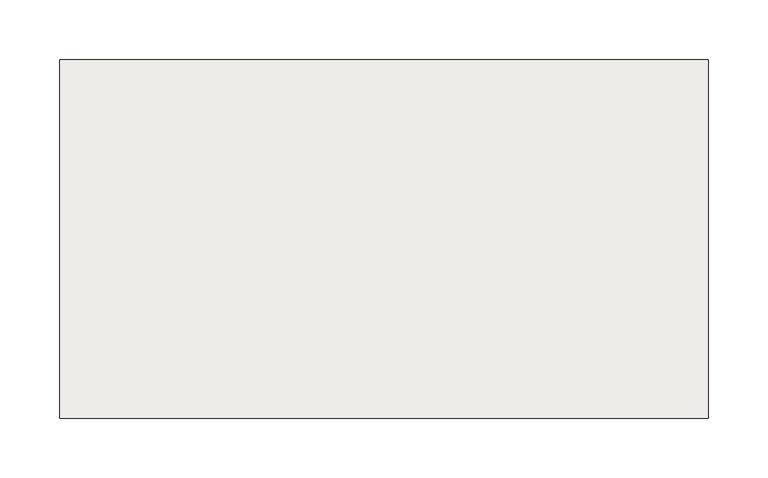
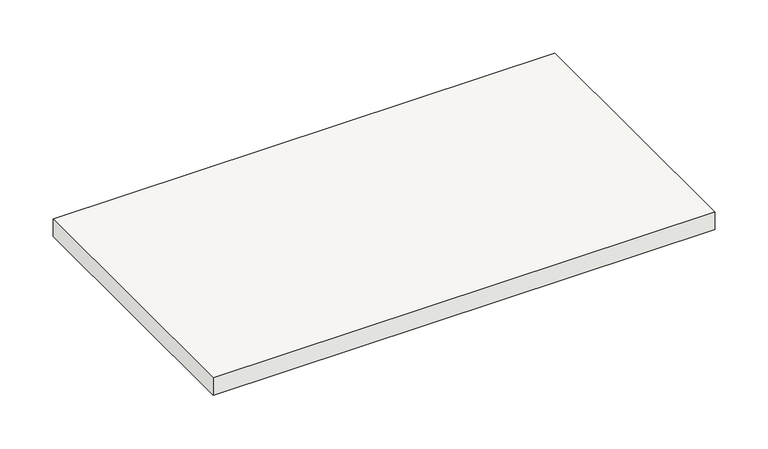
"""IFC4 building model written with IfcOpenShell, lengths in millimetres: slab geometry, Sol-02 - Tablette bois 2cm."""

import ifcopenshell
import ifcopenshell.guid

model = None  # the IFC model being written
_history = None  # IfcOwnerHistory: only IFC2X3 demands one
_inside = {}  # id of a spatial element -> (the spatial element, [elements in it])
_under = {}  # id of a project, library or spatial element -> (it, [spatial elements below it])
_declared = {}  # id of a project -> (the project, [libraries it declares])
_typed = {}  # id of a type object -> (the type object, [elements of that type])
_made_of = {}  # id of a material, layer set ... -> (it, [elements and type objects made of it])


def new_model(schema):
    """Start an empty IFC model of exactly this schema.

    Asked for "IFC4X3", IfcOpenShell would pick the latest addendum, in which some entities
    have other attributes; the version numbers below select the first issue.
    IFC2X3 requires an IfcOwnerHistory on every rooted entity: one is made here for all.
    """
    global model, _history
    if schema == "IFC4X3":
        model = ifcopenshell.file(schema_version=(4, 3, 0, 0))
    else:
        model = ifcopenshell.file(schema=schema)
    _inside.clear()
    _under.clear()
    _declared.clear()
    _typed.clear()
    _made_of.clear()
    _history = None
    if model.schema == "IFC2X3":
        org = make("IfcOrganization", Name="unknown")
        user = make(
            "IfcPersonAndOrganization",
            ThePerson=make("IfcPerson", FamilyName="unknown"),
            TheOrganization=org,
        )
        app = make(
            "IfcApplication",
            ApplicationDeveloper=org,
            Version="unknown",
            ApplicationFullName="unknown",
            ApplicationIdentifier="unknown",
        )
        _history = make(
            "IfcOwnerHistory",
            OwningUser=user,
            OwningApplication=app,
            ChangeAction="ADDED",
            CreationDate=0,
        )
    return model


def make(cls, **values):
    """One entity of the class cls with the attributes given. An attribute that is None is left unset."""
    return model.create_entity(
        cls, **{name: value for name, value in values.items() if value is not None}
    )


def rooted(cls, **values):
    """An entity with a GlobalId (a new one), such as an element, a storey or a relation."""
    return make(cls, GlobalId=ifcopenshell.guid.new(), OwnerHistory=_history, **values)


def si_unit(unit_type, name, prefix=None):
    """IfcSIUnit, for example si_unit("LENGTHUNIT", "METRE", prefix="MILLI")."""
    return make("IfcSIUnit", UnitType=unit_type, Prefix=prefix, Name=name)


def assignment(units):
    """IfcUnitAssignment: the units of a project."""
    return None if units is None else make("IfcUnitAssignment", Units=units)


def point(xyz):
    """IfcCartesianPoint."""
    return None if xyz is None else make("IfcCartesianPoint", Coordinates=xyz)


def direction(xyz):
    """IfcDirection."""
    return None if xyz is None else make("IfcDirection", DirectionRatios=xyz)


def frame(location, z_axis=None, x_axis=None):
    """IfcAxis2Placement3D, a coordinate frame: its origin and axes. An axis left out is left unset."""
    return make(
        "IfcAxis2Placement3D",
        Location=point(location),
        Axis=direction(z_axis),
        RefDirection=direction(x_axis),
    )


def origin():
    """The frame at (0, 0, 0) with its axes left unset."""
    return frame((0.0, 0.0, 0.0))


def origin_with_axes():
    """The frame at (0, 0, 0) with the z axis (0, 0, 1) and the x axis (1, 0, 0) written out."""
    return frame((0.0, 0.0, 0.0), z_axis=(0.0, 0.0, 1.0), x_axis=(1.0, 0.0, 0.0))


def place(relative_to, where):
    """IfcLocalPlacement: puts the frame where relative to a parent placement (None: the world)."""
    return make(
        "IfcLocalPlacement", PlacementRelTo=relative_to, RelativePlacement=where
    )


def context(
    kind, dimensions, precision=None, world=None, true_north=None, identifier=None
):
    """IfcGeometricRepresentationContext, for example the 3D "Model" context."""
    return make(
        "IfcGeometricRepresentationContext",
        ContextIdentifier=identifier,
        ContextType=kind,
        CoordinateSpaceDimension=dimensions,
        Precision=precision,
        WorldCoordinateSystem=world,
        TrueNorth=true_north,
    )


def project(units=None, contexts=None):
    """IfcProject with its units and contexts."""
    return rooted(
        "IfcProject",
        Name="project",
        RepresentationContexts=contexts,
        UnitsInContext=assignment(units),
    )


def spatial(cls, under=None, at=None, **own):
    """A site, building, storey or space (cls), placed at a placement, below another one or the project."""
    s = rooted(cls, ObjectPlacement=at, **own)
    if under is not None:
        _under.setdefault(under.id(), (under, []))[1].append(s)
    return s


def polyline(points):
    """IfcPolyline through the points."""
    return make("IfcPolyline", Points=[point(p) for p in points])


def outline(outer, holes=None, kind="AREA"):
    """IfcArbitraryClosedProfileDef: a profile drawn as a closed curve; with holes, ...WithVoids."""
    if holes is None:
        return make("IfcArbitraryClosedProfileDef", ProfileType=kind, OuterCurve=outer)
    return make(
        "IfcArbitraryProfileDefWithVoids",
        ProfileType=kind,
        OuterCurve=outer,
        InnerCurves=holes,
    )


def extrude(swept, where, along, depth):
    """IfcExtrudedAreaSolid: the profile swept, set in the frame where, extruded along a direction by depth."""
    return make(
        "IfcExtrudedAreaSolid",
        SweptArea=swept,
        Position=where,
        ExtrudedDirection=direction(along),
        Depth=depth,
    )


def shape(context_of_items, identifier, shape_type, items):
    """IfcShapeRepresentation: the items that make up one representation, for example the "Body"."""
    return make(
        "IfcShapeRepresentation",
        ContextOfItems=context_of_items,
        RepresentationIdentifier=identifier,
        RepresentationType=shape_type,
        Items=items,
    )


def source(mapping_origin, context_of_items, identifier, shape_type, items):
    """IfcRepresentationMap: a shape defined once, which mapped items show again and again."""
    return make(
        "IfcRepresentationMap",
        MappingOrigin=mapping_origin,
        MappedRepresentation=shape(context_of_items, identifier, shape_type, items),
    )


def transform(
    local_origin,
    x_axis=None,
    y_axis=None,
    z_axis=None,
    scale=None,
    scale2=None,
    scale3=None,
    uniform=True,
):
    """IfcCartesianTransformationOperator3D, or its non-uniform kind. x_axis, y_axis, z_axis: its Axis1, 2, 3."""
    if uniform:
        return make(
            "IfcCartesianTransformationOperator3D",
            Axis1=direction(x_axis),
            Axis2=direction(y_axis),
            LocalOrigin=point(local_origin),
            Scale=scale,
            Axis3=direction(z_axis),
        )
    return make(
        "IfcCartesianTransformationOperator3DnonUniform",
        Axis1=direction(x_axis),
        Axis2=direction(y_axis),
        LocalOrigin=point(local_origin),
        Scale=scale,
        Axis3=direction(z_axis),
        Scale2=scale2,
        Scale3=scale3,
    )


def mapped(mapping_source, mapping_target):
    """IfcMappedItem: shows the shape of a source again, moved by a transform."""
    return make(
        "IfcMappedItem", MappingSource=mapping_source, MappingTarget=mapping_target
    )


def made_of(thing, what):
    """Note that an element or type object is made of a material, layer set ...; save() writes the relation."""
    if what is not None:
        _made_of.setdefault(what.id(), (what, []))[1].append(thing)
    return thing


def element(
    cls,
    number,
    at=None,
    inside=None,
    cuts=None,
    type_object=None,
    material=None,
    context=None,
    identifier="Body",
    shape_type=None,
    held_by="IfcProductDefinitionShape",
    body=None,
    shapes=None,
    **own,
):
    """One element of the class cls, such as IfcWall. Its Tag is "e" and its number.

    at: its placement. inside: the storey or other place that contains it. cuts: it is an
    opening in that element (IfcRelVoidsElement). A single representation is given by context,
    identifier, shape_type and body (its items); several are given by shapes. held_by: the class
    of the entity that holds the representations. save() writes the other relations.
    """
    e = rooted(cls, Tag="e%d" % number, ObjectPlacement=at, **own)
    if body is not None:
        shapes = [shape(context, identifier, shape_type, body)]
    if shapes is not None:
        e.Representation = make(held_by, Representations=shapes)
    if inside is not None:
        _inside.setdefault(inside.id(), (inside, []))[1].append(e)
    if cuts is not None:
        rooted(
            "IfcRelVoidsElement", RelatingBuildingElement=cuts, RelatedOpeningElement=e
        )
    if type_object is not None:
        _typed.setdefault(type_object.id(), (type_object, []))[1].append(e)
    return made_of(e, material)


def aggregate(whole, parts):
    """IfcRelAggregates: a whole, such as a stair, and the parts it consists of."""
    return rooted("IfcRelAggregates", RelatingObject=whole, RelatedObjects=parts)


def save(model, path):
    """Write the relations noted so far, then the file.

    IfcRelAggregates (storeys below a building ...), IfcRelContainedInSpatialStructure (elements
    in a storey), IfcRelDefinesByType, IfcRelAssociatesMaterial and IfcRelDeclares: one each for
    every whole, place, type object, material and project.
    """
    for whole, parts in _under.values():
        aggregate(whole, parts)
    for where, things in _inside.values():
        rooted(
            "IfcRelContainedInSpatialStructure",
            RelatedElements=things,
            RelatingStructure=where,
        )
    for kind, things in _typed.values():
        rooted("IfcRelDefinesByType", RelatedObjects=things, RelatingType=kind)
    for what, things in _made_of.values():
        rooted("IfcRelAssociatesMaterial", RelatedObjects=things, RelatingMaterial=what)
    for by, libraries in _declared.values():
        rooted("IfcRelDeclares", RelatingContext=by, RelatedDefinitions=libraries)
    model.write(path)


def slab_c8f93b13(model_context):
    return source(origin(), model_context, "Body", "SweptSolid", [
        extrude(outline(polyline([(63798.9999483, 300.0), (64342.0000201, 300.0), (64342.0000201, 0.0), (63798.9999483, 0.0), (63798.9999483, 300.0)])), origin_with_axes(), (0.0, 0.0, 1.0), 20.0),
    ])


if __name__ == "__main__":
    model = new_model("IFC4")
    model_context = context("Model", 3, world=origin())
    ifc_project = project(units=[si_unit("LENGTHUNIT", "METRE", prefix="MILLI")], contexts=[model_context])
    site = spatial("IfcSite", under=ifc_project)
    building = spatial("IfcBuilding", under=site)
    placement = place(None, origin())
    slab_shape = slab_c8f93b13(model_context)
    element("IfcSlab", 1, ObjectType="Sol-02 - Tablette bois 2cm", at=placement, inside=building, context=model_context, shape_type="MappedRepresentation", body=[
        mapped(slab_shape, transform((0.0, 0.0, 0.0), x_axis=(1.0, 0.0, 0.0), y_axis=(0.0, 1.0, 0.0), z_axis=(0.0, 0.0, 1.0))),
    ])
    save(model, "model.ifc")
